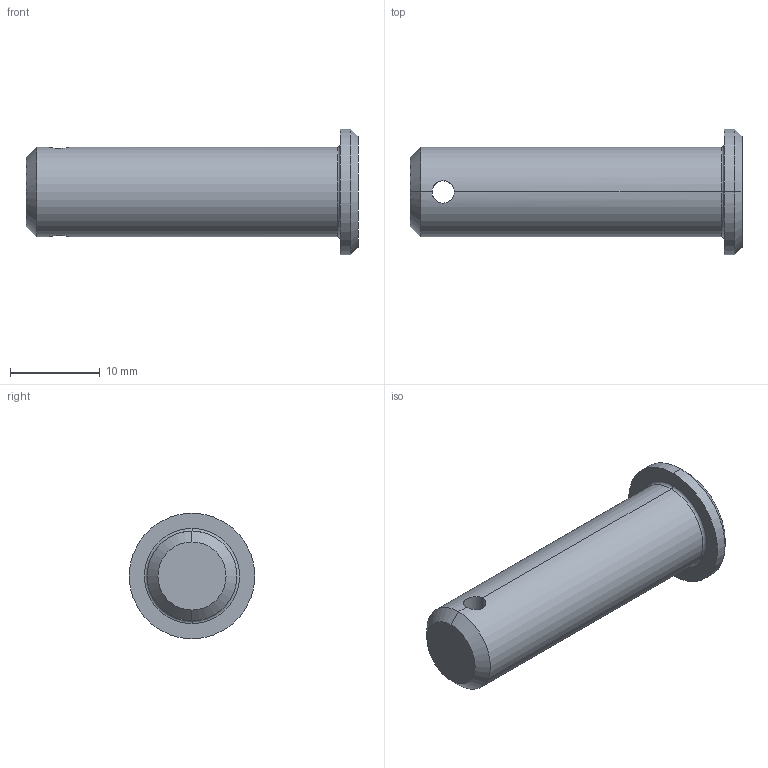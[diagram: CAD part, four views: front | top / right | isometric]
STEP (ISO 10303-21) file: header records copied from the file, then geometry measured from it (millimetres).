
FILE_DESCRIPTION (( 'STEP AP203' ), '1' );
FILE_NAME ('Wiberger-sms2360_10x35.step', '2012-10-09T08:56:58', ( 'Magnus' ), ( 'Wiberger' ), 'SwSTEP 2.0', 'SolidWorks 2011', '' );
FILE_SCHEMA (( 'CONFIG_CONTROL_DESIGN' ));
Length unit declared in the file: millimetre
Products named in the file (1): Wiberger-sms2360_10x35
Bounding box: 37 x 14 x 14 mm (x, y, z)
Volume: 2974.3 mm3; surface area: 1513.4 mm2
Topology: 1 solids, 1 shells, 15 faces, 32 edges, 18 vertices
Faces by surface type: cylinder 6, cone 4, plane 3, torus 2
Entity records: 555 total; most frequent: CARTESIAN_POINT 146, DIRECTION 76, ORIENTED_EDGE 64, EDGE_CURVE 32, AXIS2_PLACEMENT_3D 32, VERTEX_POINT 18, EDGE_LOOP 16, CIRCLE 16
